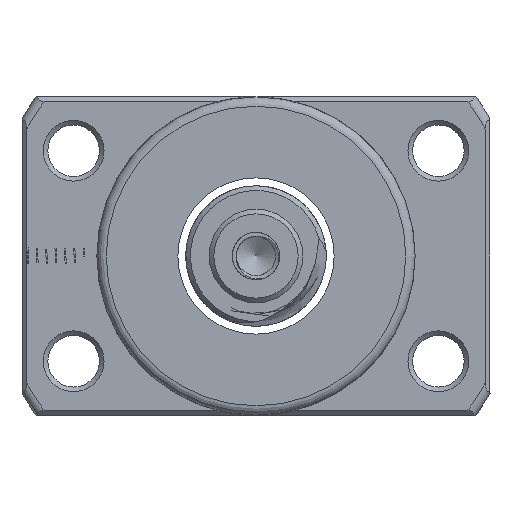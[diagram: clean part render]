
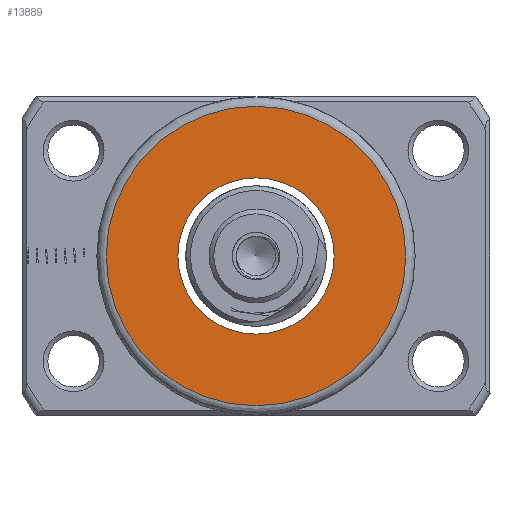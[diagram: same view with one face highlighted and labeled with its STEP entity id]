
A CAD part, left-side view. The second image highlights one B-rep face of the part: STEP entity #13889.
In plain terms, the highlighted planar face has unit normal (-1, 0, 0).
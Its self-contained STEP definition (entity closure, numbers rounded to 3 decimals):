
#1674 = CIRCLE ( 'NONE', #11592, 8.35 ) ;
#2369 = CIRCLE ( 'NONE', #16021, 16. ) ;
#2781 = EDGE_LOOP ( 'NONE', ( #8821 ) ) ;
#3164 = CARTESIAN_POINT ( 'NONE',  ( -53.324, 0., 0. ) ) ;
#3278 = VERTEX_POINT ( 'NONE', #17832 ) ;
#3388 = VERTEX_POINT ( 'NONE', #9699 ) ;
#4064 = FACE_BOUND ( 'NONE', #2781, .T. ) ;
#4271 = DIRECTION ( 'NONE',  ( -1., 0., 0. ) ) ;
#4661 = DIRECTION ( 'NONE',  ( -1., 0., 0. ) ) ;
#5243 = ORIENTED_EDGE ( 'NONE', *, *, #14963, .T. ) ;
#6481 = CARTESIAN_POINT ( 'NONE',  ( -53.324, 0., 0. ) ) ;
#8096 = DIRECTION ( 'NONE',  ( 0., 0., 1. ) ) ;
#8821 = ORIENTED_EDGE ( 'NONE', *, *, #15116, .F. ) ;
#9699 = CARTESIAN_POINT ( 'NONE',  ( -53.324, 0., 16. ) ) ;
#10898 = PLANE ( 'NONE',  #18796 ) ;
#11363 = EDGE_LOOP ( 'NONE', ( #5243 ) ) ;
#11592 = AXIS2_PLACEMENT_3D ( 'NONE', #3164, #19431, #8096 ) ;
#12609 = DIRECTION ( 'NONE',  ( 0., 0., 1. ) ) ;
#13889 = ADVANCED_FACE ( 'NONE', ( #19033, #4064 ), #10898, .T. ) ;
#14963 = EDGE_CURVE ( 'NONE', #3388, #3388, #2369, .T. ) ;
#15116 = EDGE_CURVE ( 'NONE', #3278, #3278, #1674, .T. ) ;
#16021 = AXIS2_PLACEMENT_3D ( 'NONE', #6481, #4661, #20932 ) ;
#17832 = CARTESIAN_POINT ( 'NONE',  ( -53.324, 0., 8.35 ) ) ;
#18796 = AXIS2_PLACEMENT_3D ( 'NONE', #18831, #4271, #12609 ) ;
#18831 = CARTESIAN_POINT ( 'NONE',  ( -53.324, 8.35, 0. ) ) ;
#19033 = FACE_OUTER_BOUND ( 'NONE', #11363, .T. ) ;
#19431 = DIRECTION ( 'NONE',  ( -1., 0., 0. ) ) ;
#20932 = DIRECTION ( 'NONE',  ( 0., 0., 1. ) ) ;
